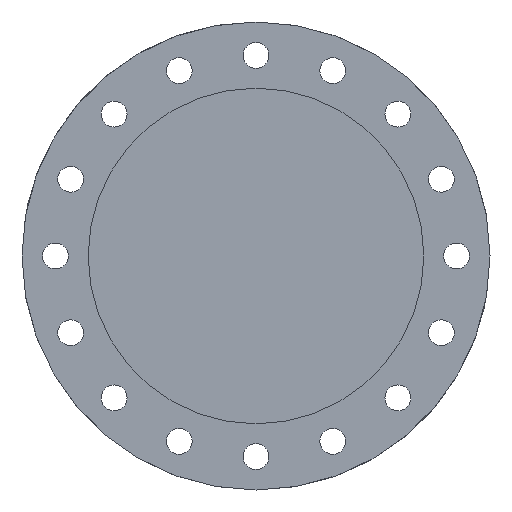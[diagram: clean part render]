
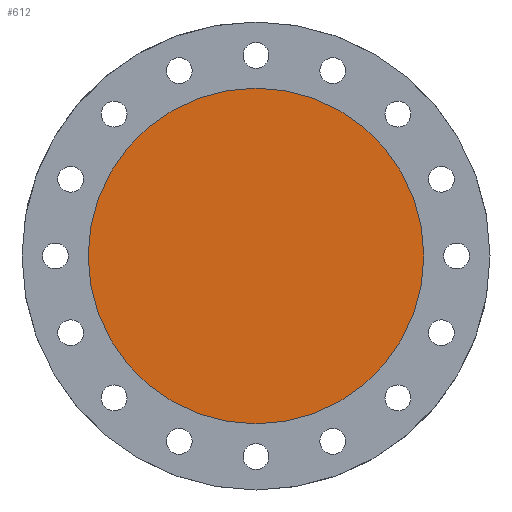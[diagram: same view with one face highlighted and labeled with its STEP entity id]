
A CAD part, front view. The second image highlights one B-rep face of the part: STEP entity #612.
In plain terms, the highlighted planar face has unit normal (0, -1, 0).
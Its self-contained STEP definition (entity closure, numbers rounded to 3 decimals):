
#26 = PLANE ( 'NONE',  #1920 ) ;
#42 = DIRECTION ( 'NONE',  ( 0., 0., 1. ) ) ;
#295 = VERTEX_POINT ( 'NONE', #1196 ) ;
#328 = DIRECTION ( 'NONE',  ( 0., 1., 0. ) ) ;
#329 = CIRCLE ( 'NONE', #2022, 59.9 ) ;
#368 = AXIS2_PLACEMENT_3D ( 'NONE', #1995, #2005, #474 ) ;
#474 = DIRECTION ( 'NONE',  ( 0., 0., 1. ) ) ;
#494 = EDGE_LOOP ( 'NONE', ( #712, #994 ) ) ;
#528 = DIRECTION ( 'NONE',  ( 0., -1., 0. ) ) ;
#612 = ADVANCED_FACE ( 'NONE', ( #1524 ), #26, .F. ) ;
#712 = ORIENTED_EDGE ( 'NONE', *, *, #1250, .T. ) ;
#757 = CIRCLE ( 'NONE', #368, 59.9 ) ;
#835 = VERTEX_POINT ( 'NONE', #1232 ) ;
#994 = ORIENTED_EDGE ( 'NONE', *, *, #1874, .T. ) ;
#1196 = CARTESIAN_POINT ( 'NONE',  ( 0., 5.7, 59.9 ) ) ;
#1232 = CARTESIAN_POINT ( 'NONE',  ( 0., 5.7, -59.9 ) ) ;
#1250 = EDGE_CURVE ( 'NONE', #295, #835, #757, .T. ) ;
#1524 = FACE_OUTER_BOUND ( 'NONE', #494, .T. ) ;
#1636 = DIRECTION ( 'NONE',  ( 0., 0., 1. ) ) ;
#1874 = EDGE_CURVE ( 'NONE', #835, #295, #329, .T. ) ;
#1912 = CARTESIAN_POINT ( 'NONE',  ( 0., 5.7, 0. ) ) ;
#1920 = AXIS2_PLACEMENT_3D ( 'NONE', #2175, #328, #1636 ) ;
#1995 = CARTESIAN_POINT ( 'NONE',  ( 0., 5.7, 0. ) ) ;
#2005 = DIRECTION ( 'NONE',  ( 0., -1., 0. ) ) ;
#2022 = AXIS2_PLACEMENT_3D ( 'NONE', #1912, #528, #42 ) ;
#2175 = CARTESIAN_POINT ( 'NONE',  ( 0., 5.7, 60.4 ) ) ;
